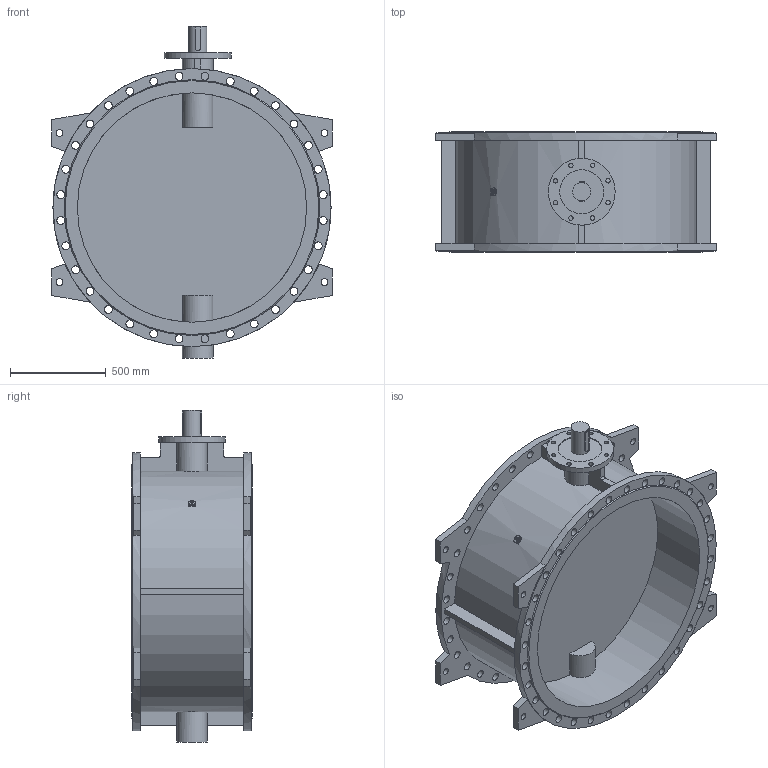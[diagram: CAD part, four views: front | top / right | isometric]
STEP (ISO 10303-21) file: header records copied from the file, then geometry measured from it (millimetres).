
FILE_DESCRIPTION(('STEP AP203'), '1');
FILE_NAME('Çàòâîð 023F.Z DN1200 PN10_èñï', '', ('UNSPECIFIED'), ('UNSPECIFIED'), 'ASCON STEP Converter 1.6', 'ASCON Math Kernel', '');
FILE_SCHEMA(('CONFIG_CONTROL_DESIGN'));
Length unit declared in the file: millimetre
Bounding box: 1466 x 630 x 1737 mm (x, y, z)
Volume: 223315675.5 mm3; surface area: 9981079.8 mm2
Topology: 1 solids, 1 shells, 194 faces, 537 edges, 358 vertices
Faces by surface type: cylinder 107, plane 85, cone 2
Full cylindrical faces by diameter (mm): 23 x8, 35 x8, 41 x64, 95 x1, 160 x1, 230 x1, 350 x1, 1200 x2, 1455 x2
Entity records: 8942 total; most frequent: CARTESIAN_POINT 2234, DIRECTION 1046, ORIENTED_EDGE 892, EDGE_LOOP 458, EDGE_CURVE 446, AXIS2_PLACEMENT_3D 424, VERTEX_POINT 358, FACE_BOUND 282
